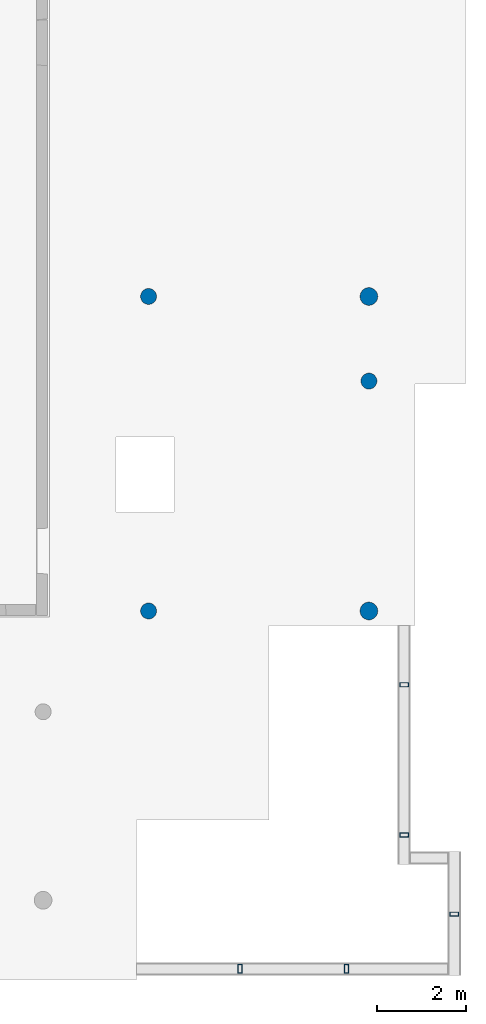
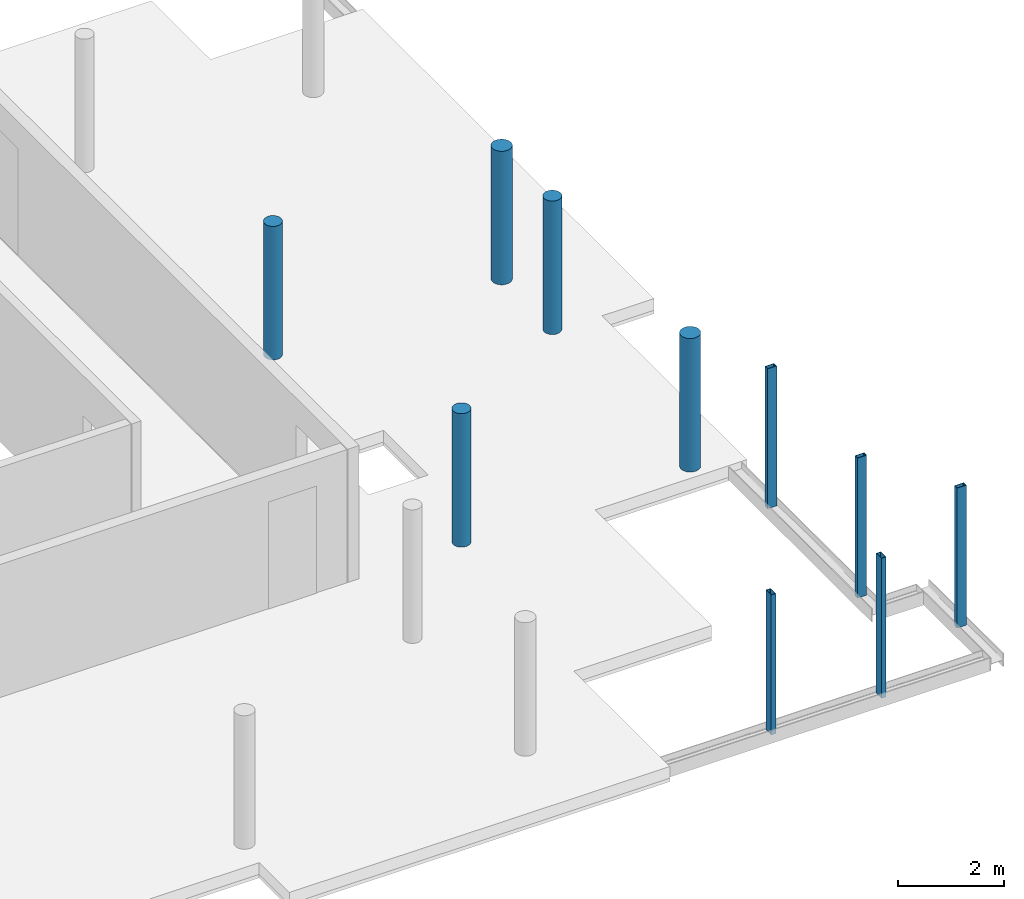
# One storey, part 2 of 7: 10 columns.
"""IFC2X3 building model written with IfcOpenShell, lengths in millimetres."""

import ifcopenshell
import ifcopenshell.guid

model = None  # the IFC model being written
_history = None  # IfcOwnerHistory: only IFC2X3 demands one
_inside = {}  # id of a spatial element -> (the spatial element, [elements in it])
_under = {}  # id of a project, library or spatial element -> (it, [spatial elements below it])
_declared = {}  # id of a project -> (the project, [libraries it declares])
_typed = {}  # id of a type object -> (the type object, [elements of that type])
_made_of = {}  # id of a material, layer set ... -> (it, [elements and type objects made of it])


def new_model(schema):
    """Start an empty IFC model of exactly this schema.

    Asked for "IFC4X3", IfcOpenShell would pick the latest addendum, in which some entities
    have other attributes; the version numbers below select the first issue.
    IFC2X3 requires an IfcOwnerHistory on every rooted entity: one is made here for all.
    """
    global model, _history
    if schema == "IFC4X3":
        model = ifcopenshell.file(schema_version=(4, 3, 0, 0))
    else:
        model = ifcopenshell.file(schema=schema)
    _inside.clear()
    _under.clear()
    _declared.clear()
    _typed.clear()
    _made_of.clear()
    _history = None
    if model.schema == "IFC2X3":
        org = make("IfcOrganization", Name="unknown")
        user = make(
            "IfcPersonAndOrganization",
            ThePerson=make("IfcPerson", FamilyName="unknown"),
            TheOrganization=org,
        )
        app = make(
            "IfcApplication",
            ApplicationDeveloper=org,
            Version="unknown",
            ApplicationFullName="unknown",
            ApplicationIdentifier="unknown",
        )
        _history = make(
            "IfcOwnerHistory",
            OwningUser=user,
            OwningApplication=app,
            ChangeAction="ADDED",
            CreationDate=0,
        )
    return model


def make(cls, **values):
    """One entity of the class cls with the attributes given. An attribute that is None is left unset."""
    return model.create_entity(
        cls, **{name: value for name, value in values.items() if value is not None}
    )


def entity(cls, *values):
    """Any entity or typed value of the class cls, its attributes in the order of the schema. None: left unset."""
    e = model.create_entity(cls)
    for i, value in enumerate(values):
        if value is not None:
            e[i] = value
    return e


def rooted(cls, **values):
    """An entity with a GlobalId (a new one), such as an element, a storey or a relation."""
    return make(cls, GlobalId=ifcopenshell.guid.new(), OwnerHistory=_history, **values)


def si_unit(unit_type, name, prefix=None):
    """IfcSIUnit, for example si_unit("LENGTHUNIT", "METRE", prefix="MILLI")."""
    return make("IfcSIUnit", UnitType=unit_type, Prefix=prefix, Name=name)


def converted_unit(unit_type, name, factor, base, dimensions=None, offset=None):
    """IfcConversionBasedUnit, such as the inch: factor (a typed value) times the base unit."""
    return make(
        "IfcConversionBasedUnit"
        if offset is None
        else "IfcConversionBasedUnitWithOffset",
        ConversionOffset=offset,
        Dimensions=None
        if dimensions is None
        else entity("IfcDimensionalExponents", *dimensions),
        UnitType=unit_type,
        Name=name,
        ConversionFactor=make(
            "IfcMeasureWithUnit", ValueComponent=factor, UnitComponent=base
        ),
    )


def derived_unit(unit_type, elements):
    """IfcDerivedUnit: a product of units, each with its exponent."""
    return make(
        "IfcDerivedUnit",
        Elements=[
            make("IfcDerivedUnitElement", Unit=unit, Exponent=power)
            for unit, power in elements
        ],
        UnitType=unit_type,
    )


def assignment(units):
    """IfcUnitAssignment: the units of a project."""
    return None if units is None else make("IfcUnitAssignment", Units=units)


def point(xyz):
    """IfcCartesianPoint."""
    return None if xyz is None else make("IfcCartesianPoint", Coordinates=xyz)


def direction(xyz):
    """IfcDirection."""
    return None if xyz is None else make("IfcDirection", DirectionRatios=xyz)


def frame(location, z_axis=None, x_axis=None):
    """IfcAxis2Placement3D, a coordinate frame: its origin and axes. An axis left out is left unset."""
    return make(
        "IfcAxis2Placement3D",
        Location=point(location),
        Axis=direction(z_axis),
        RefDirection=direction(x_axis),
    )


def frame_2d(location, x_axis=None):
    """IfcAxis2Placement2D, a coordinate frame in the plane: its origin and x axis."""
    return make(
        "IfcAxis2Placement2D", Location=point(location), RefDirection=direction(x_axis)
    )


def origin():
    """The frame at (0, 0, 0) with its axes left unset."""
    return frame((0.0, 0.0, 0.0))


def origin_2d_with_axis():
    """The frame at (0, 0) in the plane with the x axis (1, 0) written out."""
    return frame_2d((0.0, 0.0), x_axis=(1.0, 0.0))


def place(relative_to, where):
    """IfcLocalPlacement: puts the frame where relative to a parent placement (None: the world)."""
    return make(
        "IfcLocalPlacement", PlacementRelTo=relative_to, RelativePlacement=where
    )


def context(
    kind, dimensions, precision=None, world=None, true_north=None, identifier=None
):
    """IfcGeometricRepresentationContext, for example the 3D "Model" context."""
    return make(
        "IfcGeometricRepresentationContext",
        ContextIdentifier=identifier,
        ContextType=kind,
        CoordinateSpaceDimension=dimensions,
        Precision=precision,
        WorldCoordinateSystem=world,
        TrueNorth=true_north,
    )


def subcontext(parent, identifier, kind, view, scale=None):
    """IfcGeometricRepresentationSubContext, for example "Body" below "Model"."""
    return make(
        "IfcGeometricRepresentationSubContext",
        ContextIdentifier=identifier,
        ContextType=kind,
        ParentContext=parent,
        TargetScale=scale,
        TargetView=view,
    )


def project(units=None, contexts=None):
    """IfcProject with its units and contexts."""
    return rooted(
        "IfcProject",
        Name="project",
        RepresentationContexts=contexts,
        UnitsInContext=assignment(units),
    )


def spatial(cls, under=None, at=None, **own):
    """A site, building, storey or space (cls), placed at a placement, below another one or the project."""
    s = rooted(cls, ObjectPlacement=at, **own)
    if under is not None:
        _under.setdefault(under.id(), (under, []))[1].append(s)
    return s


def polyline(points):
    """IfcPolyline through the points."""
    return make("IfcPolyline", Points=[point(p) for p in points])


def circle_curve(where, radius):
    """IfcCircle in the frame where."""
    return make("IfcCircle", Position=where, Radius=radius)


def parameter(value):
    """IfcParameterValue: where a trimmed curve begins or ends, as a parameter of its basis curve."""
    return model.create_entity("IfcParameterValue", value)


def trimmed(basis, trim1, trim2, sense, master):
    """IfcTrimmedCurve: the piece of a basis curve between two trims."""
    return make(
        "IfcTrimmedCurve",
        BasisCurve=basis,
        Trim1=trim1,
        Trim2=trim2,
        SenseAgreement=sense,
        MasterRepresentation=master,
    )


def segment(curve, same_sense, transition):
    """IfcCompositeCurveSegment."""
    return make(
        "IfcCompositeCurveSegment",
        Transition=transition,
        SameSense=same_sense,
        ParentCurve=curve,
    )


def composite_curve(segments, self_intersect=None):
    """IfcCompositeCurve: segments joined end to end."""
    return make("IfcCompositeCurve", Segments=segments, SelfIntersect=self_intersect)


def profile(cls, at=None, kind="AREA", **sizes):
    """A parametric profile (cls). Its sizes go by their IFC names, for example OverallWidth=200.0."""
    return make(cls, ProfileType=kind, Position=at, **sizes)


def circle(**sizes):
    """IfcCircleProfileDef."""
    return profile("IfcCircleProfileDef", **sizes)


def outline(outer, holes=None, kind="AREA"):
    """IfcArbitraryClosedProfileDef: a profile drawn as a closed curve; with holes, ...WithVoids."""
    if holes is None:
        return make("IfcArbitraryClosedProfileDef", ProfileType=kind, OuterCurve=outer)
    return make(
        "IfcArbitraryProfileDefWithVoids",
        ProfileType=kind,
        OuterCurve=outer,
        InnerCurves=holes,
    )


def extrude(swept, where, along, depth):
    """IfcExtrudedAreaSolid: the profile swept, set in the frame where, extruded along a direction by depth."""
    return make(
        "IfcExtrudedAreaSolid",
        SweptArea=swept,
        Position=where,
        ExtrudedDirection=direction(along),
        Depth=depth,
    )


def shape(context_of_items, identifier, shape_type, items):
    """IfcShapeRepresentation: the items that make up one representation, for example the "Body"."""
    return make(
        "IfcShapeRepresentation",
        ContextOfItems=context_of_items,
        RepresentationIdentifier=identifier,
        RepresentationType=shape_type,
        Items=items,
    )


def source(mapping_origin, context_of_items, identifier, shape_type, items):
    """IfcRepresentationMap: a shape defined once, which mapped items show again and again."""
    return make(
        "IfcRepresentationMap",
        MappingOrigin=mapping_origin,
        MappedRepresentation=shape(context_of_items, identifier, shape_type, items),
    )


def transform(
    local_origin,
    x_axis=None,
    y_axis=None,
    z_axis=None,
    scale=None,
    scale2=None,
    scale3=None,
    uniform=True,
):
    """IfcCartesianTransformationOperator3D, or its non-uniform kind. x_axis, y_axis, z_axis: its Axis1, 2, 3."""
    if uniform:
        return make(
            "IfcCartesianTransformationOperator3D",
            Axis1=direction(x_axis),
            Axis2=direction(y_axis),
            LocalOrigin=point(local_origin),
            Scale=scale,
            Axis3=direction(z_axis),
        )
    return make(
        "IfcCartesianTransformationOperator3DnonUniform",
        Axis1=direction(x_axis),
        Axis2=direction(y_axis),
        LocalOrigin=point(local_origin),
        Scale=scale,
        Axis3=direction(z_axis),
        Scale2=scale2,
        Scale3=scale3,
    )


def mapped(mapping_source, mapping_target):
    """IfcMappedItem: shows the shape of a source again, moved by a transform."""
    return make(
        "IfcMappedItem", MappingSource=mapping_source, MappingTarget=mapping_target
    )


def material(Name=None, Category=None):
    """IfcMaterial."""
    return make("IfcMaterial", Name=Name, Category=Category)


def made_of(thing, what):
    """Note that an element or type object is made of a material, layer set ...; save() writes the relation."""
    if what is not None:
        _made_of.setdefault(what.id(), (what, []))[1].append(thing)
    return thing


def type_object(cls, material=None, **own):
    """A type object (cls), such as IfcWallType, which elements share."""
    return made_of(rooted(cls, **own), material)


def type_shapes(of_type, sources):
    """Give a type object the sources (RepresentationMaps) that its elements show as mapped items."""
    of_type.RepresentationMaps = sources


def element(
    cls,
    number,
    at=None,
    inside=None,
    cuts=None,
    type_object=None,
    material=None,
    context=None,
    identifier="Body",
    shape_type=None,
    held_by="IfcProductDefinitionShape",
    body=None,
    shapes=None,
    **own,
):
    """One element of the class cls, such as IfcWall. Its Tag is "e" and its number.

    at: its placement. inside: the storey or other place that contains it. cuts: it is an
    opening in that element (IfcRelVoidsElement). A single representation is given by context,
    identifier, shape_type and body (its items); several are given by shapes. held_by: the class
    of the entity that holds the representations. save() writes the other relations.
    """
    e = rooted(cls, Tag="e%d" % number, ObjectPlacement=at, **own)
    if body is not None:
        shapes = [shape(context, identifier, shape_type, body)]
    if shapes is not None:
        e.Representation = make(held_by, Representations=shapes)
    if inside is not None:
        _inside.setdefault(inside.id(), (inside, []))[1].append(e)
    if cuts is not None:
        rooted(
            "IfcRelVoidsElement", RelatingBuildingElement=cuts, RelatedOpeningElement=e
        )
    if type_object is not None:
        _typed.setdefault(type_object.id(), (type_object, []))[1].append(e)
    return made_of(e, material)


def aggregate(whole, parts):
    """IfcRelAggregates: a whole, such as a stair, and the parts it consists of."""
    return rooted("IfcRelAggregates", RelatingObject=whole, RelatedObjects=parts)


def save(model, path):
    """Write the relations noted so far, then the file.

    IfcRelAggregates (storeys below a building ...), IfcRelContainedInSpatialStructure (elements
    in a storey), IfcRelDefinesByType, IfcRelAssociatesMaterial and IfcRelDeclares: one each for
    every whole, place, type object, material and project.
    """
    for whole, parts in _under.values():
        aggregate(whole, parts)
    for where, things in _inside.values():
        rooted(
            "IfcRelContainedInSpatialStructure",
            RelatedElements=things,
            RelatingStructure=where,
        )
    for kind, things in _typed.values():
        rooted("IfcRelDefinesByType", RelatedObjects=things, RelatingType=kind)
    for what, things in _made_of.values():
        rooted("IfcRelAssociatesMaterial", RelatedObjects=things, RelatingMaterial=what)
    for by, libraries in _declared.values():
        rooted("IfcRelDeclares", RelatingContext=by, RelatedDefinitions=libraries)
    model.write(path)


model = new_model("IFC2X3")

# Units and contexts
model_context = context("Model", 3, precision=0.01, world=origin(), true_north=direction((6.12303176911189e-17, 1.0)))
body_context = subcontext(model_context, "Body", "Model", "MODEL_VIEW")
ifc_project = project(units=[si_unit("LENGTHUNIT", "METRE", prefix="MILLI"), si_unit("AREAUNIT", "SQUARE_METRE"), si_unit("VOLUMEUNIT", "CUBIC_METRE"), converted_unit("PLANEANGLEUNIT", "DEGREE", entity("IfcRatioMeasure", 0.0174532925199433), si_unit("PLANEANGLEUNIT", "RADIAN"), dimensions=[0, 0, 0, 0, 0, 0, 0]), si_unit("MASSUNIT", "GRAM", prefix="KILO"), derived_unit("MASSDENSITYUNIT", [(si_unit("MASSUNIT", "GRAM", prefix="KILO"), 1), (si_unit("LENGTHUNIT", "METRE"), -3)]), si_unit("TIMEUNIT", "SECOND"), si_unit("FREQUENCYUNIT", "HERTZ"), si_unit("THERMODYNAMICTEMPERATUREUNIT", "DEGREE_CELSIUS"), derived_unit("THERMALTRANSMITTANCEUNIT", [(si_unit("MASSUNIT", "GRAM", prefix="KILO"), 1), (si_unit("THERMODYNAMICTEMPERATUREUNIT", "KELVIN"), -1), (si_unit("TIMEUNIT", "SECOND"), -3)]), derived_unit("VOLUMETRICFLOWRATEUNIT", [(si_unit("LENGTHUNIT", "METRE"), 3), (si_unit("TIMEUNIT", "SECOND"), -1)]), si_unit("ELECTRICCURRENTUNIT", "AMPERE"), si_unit("ELECTRICVOLTAGEUNIT", "VOLT"), si_unit("POWERUNIT", "WATT"), si_unit("FORCEUNIT", "NEWTON", prefix="KILO"), si_unit("ILLUMINANCEUNIT", "LUX"), si_unit("LUMINOUSFLUXUNIT", "LUMEN"), si_unit("LUMINOUSINTENSITYUNIT", "CANDELA"), derived_unit("USERDEFINED", [(si_unit("MASSUNIT", "GRAM", prefix="KILO"), -1), (si_unit("LENGTHUNIT", "METRE"), -2), (si_unit("TIMEUNIT", "SECOND"), 3), (si_unit("LUMINOUSFLUXUNIT", "LUMEN"), 1)]), derived_unit("LINEARVELOCITYUNIT", [(si_unit("LENGTHUNIT", "METRE"), 1), (si_unit("TIMEUNIT", "SECOND"), -1)]), si_unit("PRESSUREUNIT", "PASCAL"), derived_unit("USERDEFINED", [(si_unit("LENGTHUNIT", "METRE"), -2), (si_unit("MASSUNIT", "GRAM", prefix="KILO"), 1), (si_unit("TIMEUNIT", "SECOND"), -2)])], contexts=[model_context])

# Site, building, storey
site_placement = place(None, origin())
site = spatial("IfcSite", under=ifc_project, at=site_placement, Name="Default", CompositionType="ELEMENT")
building_placement = place(site_placement, origin())
building = spatial("IfcBuilding", under=site, at=building_placement, Name="niet gebruiken", CompositionType="ELEMENT")
storey_placement = place(building_placement, frame((0.0, 0.0, 168300.0)))
storey = spatial("IfcBuildingStorey", under=building, at=storey_placement, Name="54 vierenvijftigste verdieping", CompositionType="ELEMENT", Elevation=168300.0)

# Columns
ifc_material_1 = material(Name="NLRS_f2_beton prefab")
column_type_1 = type_object("IfcColumnType", Name="ø360", PredefinedType="COLUMN", material=ifc_material_1)
shared_shape_1 = source(origin(), body_context, "Body", "SweptSolid", [
    extrude(circle(Radius=180.0, at=origin_2d_with_axis()), frame((150030.0, 17500.0, 168230.0), z_axis=(0.0, 0.0, 1.0), x_axis=(0.0, -1.0, 0.0)), (0.0, 0.0, 1.0), 3070.0),
])
type_shapes(column_type_1, [shared_shape_1])
column_1_placement = place(storey_placement, frame((0.0, 0.0, -168300.0)))
element("IfcColumn", 1, at=column_1_placement, inside=storey, type_object=column_type_1, material=ifc_material_1, Name="NLRS_28. kolom rond_gen:ø360", ObjectType="ø360", context=body_context, shape_type="MappedRepresentation", body=[
    mapped(shared_shape_1, transform((0.0, 0.0, 0.0), scale=1.0)),
])
column_type_2 = type_object("IfcColumnType", Name="ø400", PredefinedType="COLUMN", material=ifc_material_1)
shared_shape_2 = source(origin(), body_context, "Body", "SweptSolid", [
    extrude(circle(Radius=199.999999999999, at=origin_2d_with_axis()), frame((155005.0, 17500.0, 168230.0), z_axis=(0.0, 0.0, 1.0), x_axis=(0.0, -1.0, 0.0)), (0.0, 0.0, 1.0), 3070.0),
])
type_shapes(column_type_2, [shared_shape_2])
column_2_placement = place(storey_placement, frame((0.0, 0.0, -168300.0)))
element("IfcColumn", 2, at=column_2_placement, inside=storey, type_object=column_type_2, material=ifc_material_1, Name="NLRS_28. kolom rond_gen:ø400", ObjectType="ø400", context=body_context, shape_type="MappedRepresentation", body=[
    mapped(shared_shape_2, transform((0.0, 0.0, 0.0), scale=1.0)),
])
column_type_3 = type_object("IfcColumnType", Name="ø360", PredefinedType="COLUMN", material=ifc_material_1)
shared_shape_3 = source(origin(), body_context, "Body", "SweptSolid", [
    extrude(circle(Radius=180.0, at=origin_2d_with_axis()), frame((155005.0, 15590.0, 168230.0), z_axis=(0.0, 0.0, 1.0), x_axis=(0.0, -1.0, 0.0)), (0.0, 0.0, 1.0), 3070.0),
])
type_shapes(column_type_3, [shared_shape_3])
column_3_placement = place(storey_placement, frame((0.0, 0.0, -168300.0)))
element("IfcColumn", 3, at=column_3_placement, inside=storey, type_object=column_type_3, material=ifc_material_1, Name="NLRS_28. kolom rond_gen:ø360", ObjectType="ø360", context=body_context, shape_type="MappedRepresentation", body=[
    mapped(shared_shape_3, transform((0.0, 0.0, 0.0), scale=1.0)),
])
column_type_4 = type_object("IfcColumnType", Name="ø400", PredefinedType="COLUMN", material=ifc_material_1)
shared_shape_4 = source(origin(), body_context, "Body", "SweptSolid", [
    extrude(circle(Radius=199.999999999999, at=origin_2d_with_axis()), frame((155005.0, 10400.0, 168230.0), z_axis=(0.0, 0.0, 1.0), x_axis=(0.0, -1.0, 0.0)), (0.0, 0.0, 1.0), 3070.0),
])
type_shapes(column_type_4, [shared_shape_4])
column_4_placement = place(storey_placement, frame((0.0, 0.0, -168300.0)))
element("IfcColumn", 4, at=column_4_placement, inside=storey, type_object=column_type_4, material=ifc_material_1, Name="NLRS_28. kolom rond_gen:ø400", ObjectType="ø400", context=body_context, shape_type="MappedRepresentation", body=[
    mapped(shared_shape_4, transform((0.0, 0.0, 0.0), scale=1.0)),
])
column_type_5 = type_object("IfcColumnType", Name="ø360", PredefinedType="COLUMN", material=ifc_material_1)
shared_shape_5 = source(origin(), body_context, "Body", "SweptSolid", [
    extrude(circle(Radius=180.0, at=origin_2d_with_axis()), frame((150030.0, 10400.0, 168230.0), z_axis=(0.0, 0.0, 1.0), x_axis=(0.0, -1.0, 0.0)), (0.0, 0.0, 1.0), 3070.0),
])
type_shapes(column_type_5, [shared_shape_5])
column_5_placement = place(storey_placement, frame((0.0, 0.0, -168300.0)))
element("IfcColumn", 5, at=column_5_placement, inside=storey, type_object=column_type_5, material=ifc_material_1, Name="NLRS_28. kolom rond_gen:ø360", ObjectType="ø360", context=body_context, shape_type="MappedRepresentation", body=[
    mapped(shared_shape_5, transform((0.0, 0.0, 0.0), scale=1.0)),
])
ifc_material_2 = material(Name="NLRS_h2_staal")
column_type_6 = type_object("IfcColumnType", Name="kolom buisprofiel rechthoekig RHSH_200x100x10", PredefinedType="COLUMN", material=ifc_material_2)
shared_shape_6 = source(origin(), body_context, "Body", "SweptSolid", [
    extrude(outline(polyline([(-100.0, -50.0), (100.0, -50.0), (100.0, 50.0), (-100.0, 50.0), (-100.0, -50.0)]), holes=[composite_curve([segment(trimmed(circle_curve(frame_2d((-80.0, -30.0), x_axis=(0.0, 1.0)), 10.0), [parameter(90.0000000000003)], [parameter(180.0)], True, "PARAMETER"), False, "CONTINUOUS"), segment(polyline([(-90.0, -30.0), (-90.0, 30.0)]), True, "CONTINUOUS"), segment(trimmed(circle_curve(frame_2d((-80.0, 30.0), x_axis=(0.0, 1.0)), 10.0), [parameter(360.0)], [parameter(89.9999999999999)], True, "PARAMETER"), False, "CONTINUOUS"), segment(polyline([(-80.0, 40.0), (80.0, 40.0)]), True, "CONTINUOUS"), segment(trimmed(circle_curve(frame_2d((80.0, 30.0), x_axis=(0.0, 1.0)), 10.0), [parameter(270.0)], [parameter(360.0)], True, "PARAMETER"), False, "CONTINUOUS"), segment(polyline([(90.0, 30.0), (90.0, -30.0)]), True, "CONTINUOUS"), segment(trimmed(circle_curve(frame_2d((80.0, -30.0), x_axis=(0.0, 1.0)), 10.0), [parameter(180.0)], [parameter(270.0)], True, "PARAMETER"), False, "CONTINUOUS"), segment(polyline([(80.0, -40.0), (-80.0, -40.0)]), True, "CONTINUOUS")], self_intersect=False)]), frame((156930.0, 3555.0, 168040.5)), (0.0, 0.0, 1.0), 3219.50000000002),
])
type_shapes(column_type_6, [shared_shape_6])
column_6_placement = place(storey_placement, frame((0.0, 0.0, -168300.0)))
element("IfcColumn", 6, at=column_6_placement, inside=storey, type_object=column_type_6, material=ifc_material_2, Name="NLRS_28.11_SCO_TLB_stalen kolom buisprofiel rechthoekig_gen:kolom buisprofiel rechthoekig RHSH_200x100x10", ObjectType="kolom buisprofiel rechthoekig RHSH_200x100x10", context=body_context, shape_type="MappedRepresentation", body=[
    mapped(shared_shape_6, transform((0.0, 0.0, 0.0), scale=1.0)),
])
column_type_7 = type_object("IfcColumnType", Name="kolom buisprofiel rechthoekig RHSH_200x100x10", PredefinedType="COLUMN", material=ifc_material_2)
shared_shape_7 = source(origin(), body_context, "Body", "SweptSolid", [
    extrude(outline(polyline([(-100.0, -50.0), (100.0, -50.0), (100.0, 50.0), (-100.0, 50.0), (-100.0, -50.0)]), holes=[composite_curve([segment(trimmed(circle_curve(frame_2d((-80.0, -30.0), x_axis=(0.0, 1.0)), 10.0), [parameter(90.0000000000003)], [parameter(180.0)], True, "PARAMETER"), False, "CONTINUOUS"), segment(polyline([(-90.0, -30.0), (-90.0, 30.0)]), True, "CONTINUOUS"), segment(trimmed(circle_curve(frame_2d((-80.0, 30.0), x_axis=(0.0, 1.0)), 10.0), [parameter(360.0)], [parameter(89.9999999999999)], True, "PARAMETER"), False, "CONTINUOUS"), segment(polyline([(-80.0, 40.0), (80.0, 40.0)]), True, "CONTINUOUS"), segment(trimmed(circle_curve(frame_2d((80.0, 30.0), x_axis=(0.0, 1.0)), 10.0), [parameter(270.0)], [parameter(360.0)], True, "PARAMETER"), False, "CONTINUOUS"), segment(polyline([(90.0, 30.0), (90.0, -30.0)]), True, "CONTINUOUS"), segment(trimmed(circle_curve(frame_2d((80.0, -30.0), x_axis=(0.0, 1.0)), 10.0), [parameter(180.0)], [parameter(270.0)], True, "PARAMETER"), False, "CONTINUOUS"), segment(polyline([(80.0, -40.0), (-80.0, -40.0)]), True, "CONTINUOUS")], self_intersect=False)]), frame((154495.0, 2320.0, 168040.5), z_axis=(0.0, 0.0, 1.0), x_axis=(0.0, -1.0, 0.0)), (0.0, 0.0, 1.0), 3219.50000000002),
])
type_shapes(column_type_7, [shared_shape_7])
column_7_placement = place(storey_placement, frame((0.0, 0.0, -168300.0)))
element("IfcColumn", 7, at=column_7_placement, inside=storey, type_object=column_type_7, material=ifc_material_2, Name="NLRS_28.11_SCO_TLB_stalen kolom buisprofiel rechthoekig_gen:kolom buisprofiel rechthoekig RHSH_200x100x10", ObjectType="kolom buisprofiel rechthoekig RHSH_200x100x10", context=body_context, shape_type="MappedRepresentation", body=[
    mapped(shared_shape_7, transform((0.0, 0.0, 0.0), scale=1.0)),
])
column_type_8 = type_object("IfcColumnType", Name="kolom buisprofiel rechthoekig RHSH_200x100x10", PredefinedType="COLUMN", material=ifc_material_2)
shared_shape_8 = source(origin(), body_context, "Body", "SweptSolid", [
    extrude(outline(polyline([(-100.0, -50.0), (100.0, -50.0), (100.0, 50.0), (-100.0, 50.0), (-100.0, -50.0)]), holes=[composite_curve([segment(trimmed(circle_curve(frame_2d((-80.0, -30.0), x_axis=(0.0, 1.0)), 10.0), [parameter(90.0000000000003)], [parameter(180.0)], True, "PARAMETER"), False, "CONTINUOUS"), segment(polyline([(-90.0, -30.0), (-90.0, 30.0)]), True, "CONTINUOUS"), segment(trimmed(circle_curve(frame_2d((-80.0, 30.0), x_axis=(0.0, 1.0)), 10.0), [parameter(360.0)], [parameter(89.9999999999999)], True, "PARAMETER"), False, "CONTINUOUS"), segment(polyline([(-80.0, 40.0), (80.0, 40.0)]), True, "CONTINUOUS"), segment(trimmed(circle_curve(frame_2d((80.0, 30.0), x_axis=(0.0, 1.0)), 10.0), [parameter(270.0)], [parameter(360.0)], True, "PARAMETER"), False, "CONTINUOUS"), segment(polyline([(90.0, 30.0), (90.0, -30.0)]), True, "CONTINUOUS"), segment(trimmed(circle_curve(frame_2d((80.0, -30.0), x_axis=(0.0, 1.0)), 10.0), [parameter(180.0)], [parameter(270.0)], True, "PARAMETER"), False, "CONTINUOUS"), segment(polyline([(80.0, -40.0), (-80.0, -40.0)]), True, "CONTINUOUS")], self_intersect=False)]), frame((152095.0, 2320.0, 168040.5), z_axis=(0.0, 0.0, 1.0), x_axis=(0.0, -1.0, 0.0)), (0.0, 0.0, 1.0), 3219.50000000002),
])
type_shapes(column_type_8, [shared_shape_8])
column_8_placement = place(storey_placement, frame((0.0, 0.0, -168300.0)))
element("IfcColumn", 8, at=column_8_placement, inside=storey, type_object=column_type_8, material=ifc_material_2, Name="NLRS_28.11_SCO_TLB_stalen kolom buisprofiel rechthoekig_gen:kolom buisprofiel rechthoekig RHSH_200x100x10", ObjectType="kolom buisprofiel rechthoekig RHSH_200x100x10", context=body_context, shape_type="MappedRepresentation", body=[
    mapped(shared_shape_8, transform((0.0, 0.0, 0.0), scale=1.0)),
])
column_type_9 = type_object("IfcColumnType", Name="kolom buisprofiel rechthoekig RHSH_200x100x10", PredefinedType="COLUMN", material=ifc_material_2)
shared_shape_9 = source(origin(), body_context, "Body", "SweptSolid", [
    extrude(outline(polyline([(-100.0, -50.0), (100.0, -50.0), (100.0, 50.0), (-100.0, 50.0), (-100.0, -50.0)]), holes=[composite_curve([segment(trimmed(circle_curve(frame_2d((-80.0, -30.0), x_axis=(0.0, 1.0)), 10.0), [parameter(90.0000000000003)], [parameter(180.0)], True, "PARAMETER"), False, "CONTINUOUS"), segment(polyline([(-90.0, -30.0), (-90.0, 30.0)]), True, "CONTINUOUS"), segment(trimmed(circle_curve(frame_2d((-80.0, 30.0), x_axis=(0.0, 1.0)), 10.0), [parameter(360.0)], [parameter(89.9999999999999)], True, "PARAMETER"), False, "CONTINUOUS"), segment(polyline([(-80.0, 40.0), (80.0, 40.0)]), True, "CONTINUOUS"), segment(trimmed(circle_curve(frame_2d((80.0, 30.0), x_axis=(0.0, 1.0)), 10.0), [parameter(270.0)], [parameter(360.0)], True, "PARAMETER"), False, "CONTINUOUS"), segment(polyline([(90.0, 30.0), (90.0, -30.0)]), True, "CONTINUOUS"), segment(trimmed(circle_curve(frame_2d((80.0, -30.0), x_axis=(0.0, 1.0)), 10.0), [parameter(180.0)], [parameter(270.0)], True, "PARAMETER"), False, "CONTINUOUS"), segment(polyline([(80.0, -40.0), (-80.0, -40.0)]), True, "CONTINUOUS")], self_intersect=False)]), frame((155799.0, 8735.0, 168040.5)), (0.0, 0.0, 1.0), 3219.50000000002),
])
type_shapes(column_type_9, [shared_shape_9])
column_9_placement = place(storey_placement, frame((0.0, 0.0, -168300.0)))
element("IfcColumn", 9, at=column_9_placement, inside=storey, type_object=column_type_9, material=ifc_material_2, Name="NLRS_28.11_SCO_TLB_stalen kolom buisprofiel rechthoekig_gen:kolom buisprofiel rechthoekig RHSH_200x100x10", ObjectType="kolom buisprofiel rechthoekig RHSH_200x100x10", context=body_context, shape_type="MappedRepresentation", body=[
    mapped(shared_shape_9, transform((0.0, 0.0, 0.0), scale=1.0)),
])
column_type_10 = type_object("IfcColumnType", Name="kolom buisprofiel rechthoekig RHSH_200x100x10", PredefinedType="COLUMN", material=ifc_material_2)
shared_shape_10 = source(origin(), body_context, "Body", "SweptSolid", [
    extrude(outline(polyline([(-100.0, -50.0), (100.0, -50.0), (100.0, 50.0), (-100.0, 50.0), (-100.0, -50.0)]), holes=[composite_curve([segment(trimmed(circle_curve(frame_2d((-80.0, -30.0), x_axis=(0.0, 1.0)), 10.0), [parameter(90.0000000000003)], [parameter(180.0)], True, "PARAMETER"), False, "CONTINUOUS"), segment(polyline([(-90.0, -30.0), (-90.0, 30.0)]), True, "CONTINUOUS"), segment(trimmed(circle_curve(frame_2d((-80.0, 30.0), x_axis=(0.0, 1.0)), 10.0), [parameter(360.0)], [parameter(89.9999999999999)], True, "PARAMETER"), False, "CONTINUOUS"), segment(polyline([(-80.0, 40.0), (80.0, 40.0)]), True, "CONTINUOUS"), segment(trimmed(circle_curve(frame_2d((80.0, 30.0), x_axis=(0.0, 1.0)), 10.0), [parameter(270.0)], [parameter(360.0)], True, "PARAMETER"), False, "CONTINUOUS"), segment(polyline([(90.0, 30.0), (90.0, -30.0)]), True, "CONTINUOUS"), segment(trimmed(circle_curve(frame_2d((80.0, -30.0), x_axis=(0.0, 1.0)), 10.0), [parameter(180.0)], [parameter(270.0)], True, "PARAMETER"), False, "CONTINUOUS"), segment(polyline([(80.0, -40.0), (-80.0, -40.0)]), True, "CONTINUOUS")], self_intersect=False)]), frame((155799.0, 5348.0, 168040.5)), (0.0, 0.0, 1.0), 3219.50000000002),
])
type_shapes(column_type_10, [shared_shape_10])
column_10_placement = place(storey_placement, frame((0.0, 0.0, -168300.0)))
element("IfcColumn", 10, at=column_10_placement, inside=storey, type_object=column_type_10, material=ifc_material_2, Name="NLRS_28.11_SCO_TLB_stalen kolom buisprofiel rechthoekig_gen:kolom buisprofiel rechthoekig RHSH_200x100x10", ObjectType="kolom buisprofiel rechthoekig RHSH_200x100x10", context=body_context, shape_type="MappedRepresentation", body=[
    mapped(shared_shape_10, transform((0.0, 0.0, 0.0), scale=1.0)),
])

save(model, "model.ifc")
